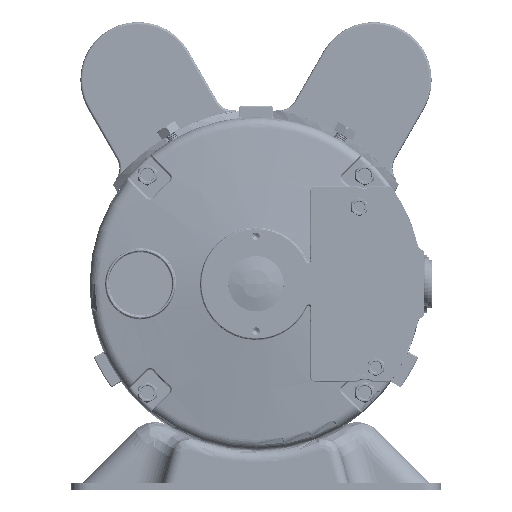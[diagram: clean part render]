
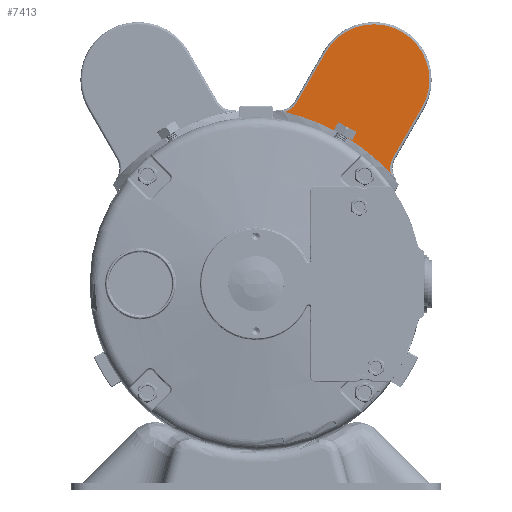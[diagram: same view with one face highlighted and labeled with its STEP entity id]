
A CAD part, top view. The second image highlights one B-rep face of the part: STEP entity #7413.
In plain terms, the highlighted planar face has unit normal (0, 0, 1) as drawn and (0, -1, 0) by its records, which use the part's own axes.
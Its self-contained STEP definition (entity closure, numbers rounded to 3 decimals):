
#2186 = EDGE_CURVE ( 'NONE', #51659, #28643, #62674, .T. ) ;
#3797 = VECTOR ( 'NONE', #89138, 1000. ) ;
#3873 = CARTESIAN_POINT ( 'NONE',  ( -1.155, -81.554, 70.671 ) ) ;
#4141 = CARTESIAN_POINT ( 'NONE',  ( -40.554, -81.554, -15.57 ) ) ;
#4225 = ORIENTED_EDGE ( 'NONE', *, *, #14599, .T. ) ;
#4290 = DIRECTION ( 'NONE',  ( 0., -1., 0. ) ) ;
#6885 = DIRECTION ( 'NONE',  ( 0., 0., 1. ) ) ;
#7102 = DIRECTION ( 'NONE',  ( 0., -1., 0. ) ) ;
#7353 = VERTEX_POINT ( 'NONE', #36757 ) ;
#7413 = ADVANCED_FACE ( 'NONE', ( #52407 ), #81395, .F. ) ;
#8515 = AXIS2_PLACEMENT_3D ( 'NONE', #69352, #4290, #33243 ) ;
#10372 = CARTESIAN_POINT ( 'NONE',  ( 48.209, -81.554, 42.171 ) ) ;
#10387 = CIRCLE ( 'NONE', #63484, 92. ) ;
#11559 = AXIS2_PLACEMENT_3D ( 'NONE', #3873, #32809, #61812 ) ;
#12075 = ORIENTED_EDGE ( 'NONE', *, *, #68936, .T. ) ;
#14047 = DIRECTION ( 'NONE',  ( 0.866, 0., -0.5 ) ) ;
#14599 = EDGE_CURVE ( 'NONE', #27836, #51659, #10387, .T. ) ;
#15187 = VECTOR ( 'NONE', #33091, 1000. ) ;
#16311 = CARTESIAN_POINT ( 'NONE',  ( -19.77, -81.554, -27.57 ) ) ;
#16542 = CARTESIAN_POINT ( 'NONE',  ( 47.291, -81.554, 35.413 ) ) ;
#16613 = VERTEX_POINT ( 'NONE', #43796 ) ;
#20677 = AXIS2_PLACEMENT_3D ( 'NONE', #72198, #7102, #36076 ) ;
#20691 = EDGE_CURVE ( 'NONE', #28643, #7353, #31165, .T. ) ;
#21705 = AXIS2_PLACEMENT_3D ( 'NONE', #42984, #71983, #6885 ) ;
#22806 = ORIENTED_EDGE ( 'NONE', *, *, #2186, .T. ) ;
#27836 = VERTEX_POINT ( 'NONE', #32750 ) ;
#28643 = VERTEX_POINT ( 'NONE', #10372 ) ;
#29359 = VERTEX_POINT ( 'NONE', #81186 ) ;
#31165 = LINE ( 'NONE', #60138, #3797 ) ;
#31682 = EDGE_CURVE ( 'NONE', #93736, #27836, #52506, .T. ) ;
#32750 = CARTESIAN_POINT ( 'NONE',  ( 1.245, -81.554, 61.997 ) ) ;
#32809 = DIRECTION ( 'NONE',  ( 0., 1., 0. ) ) ;
#33091 = DIRECTION ( 'NONE',  ( -0.5, 0., -0.866 ) ) ;
#33243 = DIRECTION ( 'NONE',  ( 0., 0., 1. ) ) ;
#36076 = DIRECTION ( 'NONE',  ( 0., 0., 1. ) ) ;
#36757 = CARTESIAN_POINT ( 'NONE',  ( 60.75, -81.554, 63.894 ) ) ;
#39025 = EDGE_LOOP ( 'NONE', ( #4225, #22806, #50596, #49100, #12075, #77603, #75625 ) ) ;
#42984 = CARTESIAN_POINT ( 'NONE',  ( 56.003, -81.554, 37.671 ) ) ;
#43796 = CARTESIAN_POINT ( 'NONE',  ( 39.965, -81.554, 99.894 ) ) ;
#45310 = DIRECTION ( 'NONE',  ( 0., 1., 0. ) ) ;
#49100 = ORIENTED_EDGE ( 'NONE', *, *, #89678, .T. ) ;
#50142 = CARTESIAN_POINT ( 'NONE',  ( -19.77, -81.554, -27.57 ) ) ;
#50596 = ORIENTED_EDGE ( 'NONE', *, *, #20691, .T. ) ;
#51659 = VERTEX_POINT ( 'NONE', #16542 ) ;
#52407 = FACE_OUTER_BOUND ( 'NONE', #39025, .T. ) ;
#52506 = CIRCLE ( 'NONE', #11559, 9. ) ;
#60138 = CARTESIAN_POINT ( 'NONE',  ( 1.015, -81.554, -39.57 ) ) ;
#61644 = CIRCLE ( 'NONE', #20677, 24. ) ;
#61812 = DIRECTION ( 'NONE',  ( 0., 0., 1. ) ) ;
#62674 = CIRCLE ( 'NONE', #21705, 9. ) ;
#63484 = AXIS2_PLACEMENT_3D ( 'NONE', #50142, #79139, #14047 ) ;
#67949 = EDGE_CURVE ( 'NONE', #29359, #93736, #69209, .T. ) ;
#68936 = EDGE_CURVE ( 'NONE', #16613, #29359, #61644, .T. ) ;
#69209 = LINE ( 'NONE', #4141, #15187 ) ;
#69352 = CARTESIAN_POINT ( 'NONE',  ( 39.965, -81.554, 75.894 ) ) ;
#71983 = DIRECTION ( 'NONE',  ( 0., 1., 0. ) ) ;
#72198 = CARTESIAN_POINT ( 'NONE',  ( 39.965, -81.554, 75.894 ) ) ;
#74306 = DIRECTION ( 'NONE',  ( 1., 0., 0. ) ) ;
#75625 = ORIENTED_EDGE ( 'NONE', *, *, #31682, .T. ) ;
#77603 = ORIENTED_EDGE ( 'NONE', *, *, #67949, .T. ) ;
#78574 = CARTESIAN_POINT ( 'NONE',  ( 6.639, -81.554, 66.171 ) ) ;
#79139 = DIRECTION ( 'NONE',  ( 0., 1., 0. ) ) ;
#81186 = CARTESIAN_POINT ( 'NONE',  ( 19.181, -81.554, 87.894 ) ) ;
#81395 = PLANE ( 'NONE',  #86629 ) ;
#86629 = AXIS2_PLACEMENT_3D ( 'NONE', #16311, #45310, #74306 ) ;
#89138 = DIRECTION ( 'NONE',  ( 0.5, 0., 0.866 ) ) ;
#89678 = EDGE_CURVE ( 'NONE', #7353, #16613, #90465, .T. ) ;
#90465 = CIRCLE ( 'NONE', #8515, 24. ) ;
#93736 = VERTEX_POINT ( 'NONE', #78574 ) ;
